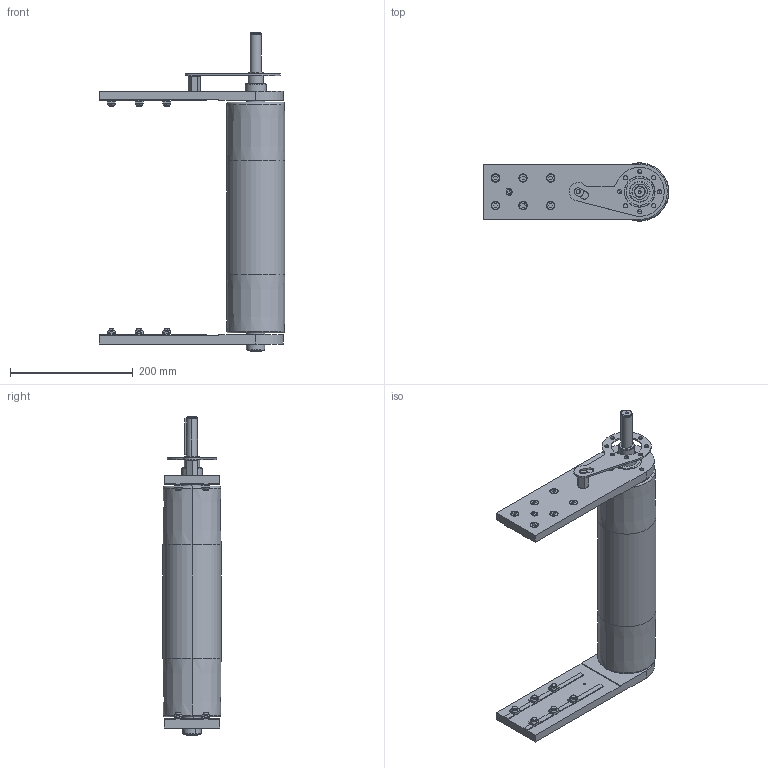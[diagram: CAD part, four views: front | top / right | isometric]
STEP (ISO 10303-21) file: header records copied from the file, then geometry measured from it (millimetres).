
FILE_DESCRIPTION (( 'STEP AP203' ), '1' );
FILE_NAME ('084.095.KD.44.350.STEP', '2021-10-18T08:22:12', ( 'Localadmin' ), ( 'Microsoft' ), 'SwSTEP 2.0', 'SolidWorks 2018', '' );
FILE_SCHEMA (( 'CONFIG_CONTROL_DESIGN' ));
Length unit declared in the file: millimetre
Products named in the file (15): Circlip DIN 471 - 30 x 1.5_Circlip DIN 471 - 30 x 1.5; 084.301.000 VITI ALUSIC_084.301.003; CHIAVETTE_A 6x6x60 UNI 6604-69; 084.302.000 DADI ALUSIC 13x13_084.302.004; 084.095.KD.44.350; 084.816.118_084.816.107<A macchina>; 084.812.003; 084.808.003_084.808.003; 084.802.027; 084.808.002_084.808.002; 084.807.005; 084.810.003; 084.812.001; 084.802.019_084.802.019; 084.802.034_084.802.034
Assembly tree (38 placements, depth 2):
  084.095.KD.44.350
    084.802.027
    084.807.005
    084.812.001
    084.802.034_084.802.034
    084.301.000 VITI ALUSIC_084.301.003  x12
    084.302.000 DADI ALUSIC 13x13_084.302.004  x12
    084.816.118_084.816.107<A macchina>
    084.812.003
    084.808.003_084.808.003
    084.808.002_084.808.002
    084.810.003  x2
    084.802.019_084.802.019
    Circlip DIN 471 - 30 x 1.5_Circlip DIN 471 - 30 x 1.5  x2
    CHIAVETTE_A 6x6x60 UNI 6604-69
Bounding box: 302.5 x 95 x 518.5 mm (x, y, z)
Volume: 1632360.3 mm3; surface area: 631604.4 mm2
Topology: 43 solids, 44 shells, 1023 faces, 2560 edges, 1663 vertices
Faces by surface type: plane 457, cylinder 341, torus 92, cone 76, bspline 48, sphere 9
Entity records: 22007 total; most frequent: CARTESIAN_POINT 4393, DIRECTION 3334, ORIENTED_EDGE 3132, EDGE_CURVE 1566, AXIS2_PLACEMENT_3D 1313, VERTEX_POINT 1020, EDGE_LOOP 734, CIRCLE 711
